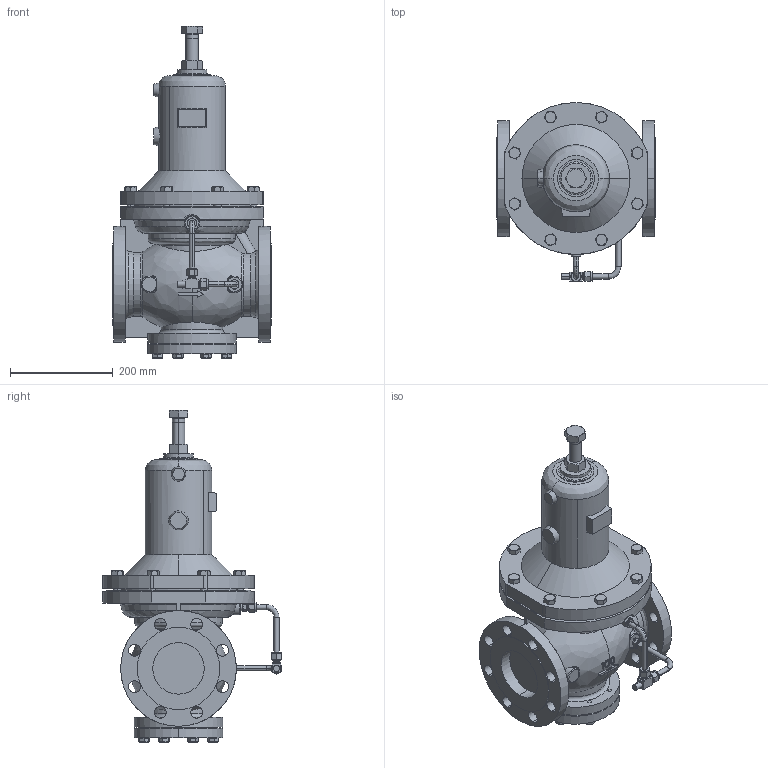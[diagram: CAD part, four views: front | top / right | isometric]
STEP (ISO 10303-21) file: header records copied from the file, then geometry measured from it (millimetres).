
FILE_DESCRIPTION( (''), '2;1');
FILE_NAME ('PC1276.9968.GD-200H 100A_25081.stp','2026-01-15T16:50:16',(''),(''),'spGate 20.6.3 (****-****-****-****)','','');
FILE_SCHEMA (('AUTOMOTIVE_DESIGN'));
Length unit declared in the file: millimetre
Products named in the file (11): Assembly; GD200(4B)本体; 100A保護筒; CP_''_JIS B 1180 全ネジ六角ボルト''_17166; CP_''_JIS B 1181 六角ナット 2種 上 ''_700; B-600-1-4RT; SS-10M0-3; 検出管A65_M5; 検出管B65_M5; CP_''_JIS B 1180 全ネジ六角ボ''_(1)_17166; CP_''_JIS B 1180 全ネジ六角ボ''_(2)_17166
Assembly tree (25 placements, depth 2):
  Assembly
    GD200(4B)本体
    100A保護筒
    CP_''_JIS B 1180 全ネジ六角ボルト''_17166
    CP_''_JIS B 1181 六角ナット 2種 上 ''_700
    B-600-1-4RT  x2
    SS-10M0-3
    検出管A65_M5
    検出管B65_M5
    CP_''_JIS B 1180 全ネジ六角ボ''_(1)_17166  x8
    CP_''_JIS B 1180 全ネジ六角ボ''_(2)_17166  x8
Bounding box: 308 x 347.36 x 645 mm (x, y, z)
Volume: 16186726.5 mm3; surface area: 913276 mm2
Topology: 25 solids, 25 shells, 953 faces, 2147 edges, 1321 vertices
Faces by surface type: bspline 348, plane 346, cylinder 259
Entity records: 32098 total; most frequent: CARTESIAN_POINT 9574, ORIENTED_EDGE 2634, DIRECTION 2145, COLOUR_RGB 1884, PRESENTATION_STYLE_ASSIGNMENT 1884, STYLED_ITEM 1884, EDGE_CURVE 1317, DRAUGHTING_PRE_DEFINED_CURVE_FONT 1317
